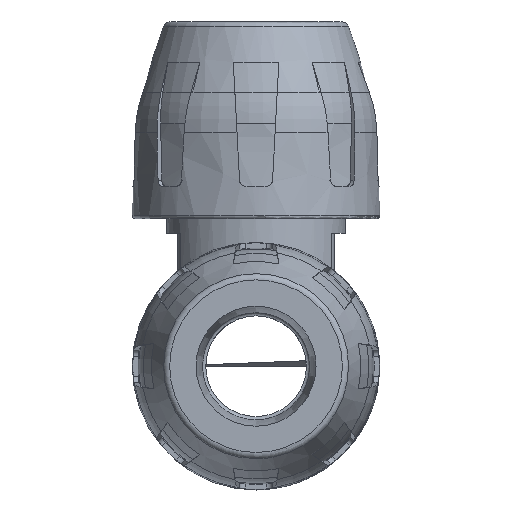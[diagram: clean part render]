
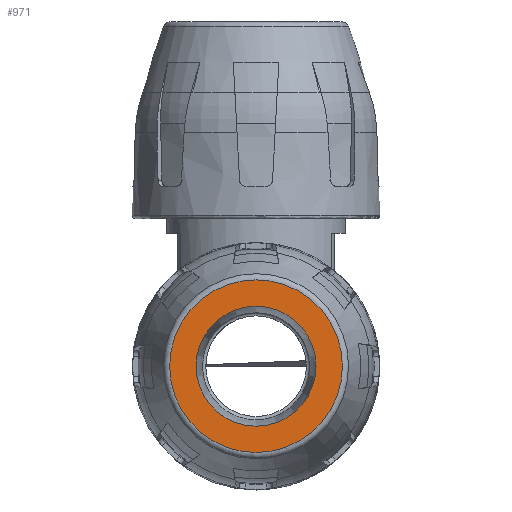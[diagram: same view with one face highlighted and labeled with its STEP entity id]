
A CAD part, left-side view. The second image highlights one B-rep face of the part: STEP entity #971.
In plain terms, the highlighted planar face has unit normal (-1, 0, 0).
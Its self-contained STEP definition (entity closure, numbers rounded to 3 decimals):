
#971 = ADVANCED_FACE( '', ( #2368, #2369 ), #2370, .F. );
#2368 = FACE_BOUND( '', #4549, .T. );
#2369 = FACE_OUTER_BOUND( '', #4550, .T. );
#2370 = PLANE( '', #4551 );
#4549 = EDGE_LOOP( '', ( #8651 ) );
#4550 = EDGE_LOOP( '', ( #8652 ) );
#4551 = AXIS2_PLACEMENT_3D( '', #8653, #8654, #8655 );
#8651 = ORIENTED_EDGE( '', *, *, #13312, .T. );
#8652 = ORIENTED_EDGE( '', *, *, #12997, .F. );
#8653 = CARTESIAN_POINT( '', ( -53.199, 0., -30.447 ) );
#8654 = DIRECTION( '', ( 1., 0., 0. ) );
#8655 = DIRECTION( '', ( 0., 0., -1. ) );
#12997 = EDGE_CURVE( '', #15554, #15554, #15555, .F. );
#13312 = EDGE_CURVE( '', #16075, #16075, #16076, .F. );
#15554 = VERTEX_POINT( '', #19461 );
#15555 = CIRCLE( '', #19462, 13.295 );
#16075 = VERTEX_POINT( '', #20441 );
#16076 = CIRCLE( '', #20442, 9.237 );
#19461 = CARTESIAN_POINT( '', ( -53.199, 0., -27.445 ) );
#19462 = AXIS2_PLACEMENT_3D( '', #24184, #24185, #24186 );
#20441 = CARTESIAN_POINT( '', ( -53.199, 0., -23.387 ) );
#20442 = AXIS2_PLACEMENT_3D( '', #24532, #24533, #24534 );
#24184 = CARTESIAN_POINT( '', ( -53.199, 0., -14.15 ) );
#24185 = DIRECTION( '', ( -1., 0., 0. ) );
#24186 = DIRECTION( '', ( 0., 0., -1. ) );
#24532 = CARTESIAN_POINT( '', ( -53.199, 0., -14.15 ) );
#24533 = DIRECTION( '', ( -1., 0., 0. ) );
#24534 = DIRECTION( '', ( 0., 0., -1. ) );
